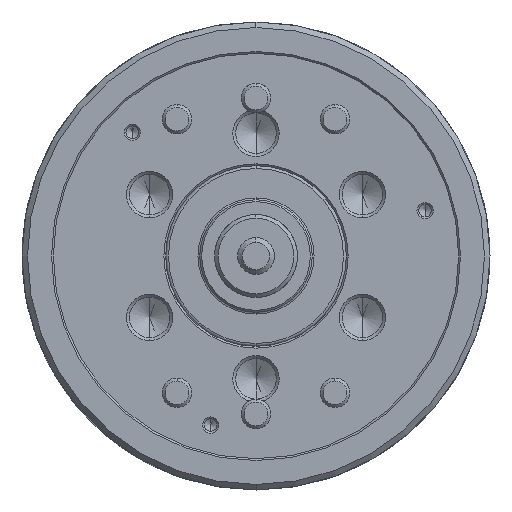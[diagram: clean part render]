
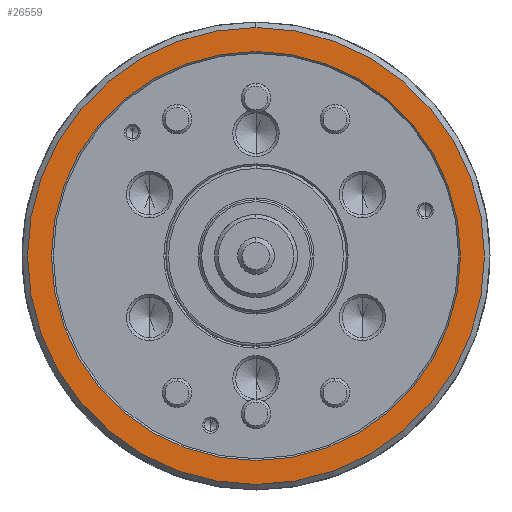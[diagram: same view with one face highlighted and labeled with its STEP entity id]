
A CAD part, left-side view. The second image highlights one B-rep face of the part: STEP entity #26559.
In plain terms, the highlighted planar face has unit normal (-1, 0, 0) as drawn and (0, 0, -1) by its records, which use the part's own axes.
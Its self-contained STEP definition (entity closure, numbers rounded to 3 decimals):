
#161 = FACE_OUTER_BOUND ( 'NONE', #38587, .T. ) ;
#588 = DIRECTION ( 'NONE',  ( 1., 0., 0. ) ) ;
#1246 = ORIENTED_EDGE ( 'NONE', *, *, #7819, .T. ) ;
#7500 = CIRCLE ( 'NONE', #51205, 111. ) ;
#7819 = EDGE_CURVE ( 'NONE', #17924, #36817, #51297, .T. ) ;
#8359 = DIRECTION ( 'NONE',  ( 0., 0., 1. ) ) ;
#8802 = VERTEX_POINT ( 'NONE', #53176 ) ;
#8861 = DIRECTION ( 'NONE',  ( 0., 0., 1. ) ) ;
#12606 = CIRCLE ( 'NONE', #35265, 124. ) ;
#14139 = CIRCLE ( 'NONE', #50813, 124. ) ;
#15662 = CARTESIAN_POINT ( 'NONE',  ( 0., 0., -89. ) ) ;
#16353 = CARTESIAN_POINT ( 'NONE',  ( -111., 0., -89. ) ) ;
#17924 = VERTEX_POINT ( 'NONE', #50281 ) ;
#19830 = DIRECTION ( 'NONE',  ( 1., 0., 0. ) ) ;
#20558 = AXIS2_PLACEMENT_3D ( 'NONE', #33180, #8359, #37327 ) ;
#20578 = EDGE_CURVE ( 'NONE', #8802, #26960, #12606, .T. ) ;
#24593 = CARTESIAN_POINT ( 'NONE',  ( 0., 0., -89. ) ) ;
#25491 = DIRECTION ( 'NONE',  ( 0., 0., 1. ) ) ;
#26559 = ADVANCED_FACE ( 'NONE', ( #161, #44233 ), #33695, .F. ) ;
#26960 = VERTEX_POINT ( 'NONE', #40634 ) ;
#27625 = ORIENTED_EDGE ( 'NONE', *, *, #49898, .T. ) ;
#28745 = DIRECTION ( 'NONE',  ( 1., 0., 0. ) ) ;
#30081 = AXIS2_PLACEMENT_3D ( 'NONE', #50118, #8861, #37834 ) ;
#33180 = CARTESIAN_POINT ( 'NONE',  ( 0., 0., -89. ) ) ;
#33695 = PLANE ( 'NONE',  #30081 ) ;
#35265 = AXIS2_PLACEMENT_3D ( 'NONE', #24593, #53468, #28745 ) ;
#36817 = VERTEX_POINT ( 'NONE', #16353 ) ;
#37327 = DIRECTION ( 'NONE',  ( 1., 0., 0. ) ) ;
#37834 = DIRECTION ( 'NONE',  ( 1., 0., 0. ) ) ;
#38484 = ORIENTED_EDGE ( 'NONE', *, *, #48525, .F. ) ;
#38587 = EDGE_LOOP ( 'NONE', ( #38484, #48356 ) ) ;
#40634 = CARTESIAN_POINT ( 'NONE',  ( 124., 0., -89. ) ) ;
#44233 = FACE_BOUND ( 'NONE', #46467, .T. ) ;
#44569 = DIRECTION ( 'NONE',  ( 0., 0., 1. ) ) ;
#46467 = EDGE_LOOP ( 'NONE', ( #27625, #1246 ) ) ;
#48356 = ORIENTED_EDGE ( 'NONE', *, *, #20578, .F. ) ;
#48525 = EDGE_CURVE ( 'NONE', #26960, #8802, #14139, .T. ) ;
#49898 = EDGE_CURVE ( 'NONE', #36817, #17924, #7500, .T. ) ;
#50118 = CARTESIAN_POINT ( 'NONE',  ( 0., -124., -89. ) ) ;
#50195 = CARTESIAN_POINT ( 'NONE',  ( 0., 0., -89. ) ) ;
#50281 = CARTESIAN_POINT ( 'NONE',  ( 111., 0., -89. ) ) ;
#50813 = AXIS2_PLACEMENT_3D ( 'NONE', #15662, #44569, #19830 ) ;
#51205 = AXIS2_PLACEMENT_3D ( 'NONE', #50195, #25491, #588 ) ;
#51297 = CIRCLE ( 'NONE', #20558, 111. ) ;
#53176 = CARTESIAN_POINT ( 'NONE',  ( -124., 0., -89. ) ) ;
#53468 = DIRECTION ( 'NONE',  ( 0., 0., 1. ) ) ;
